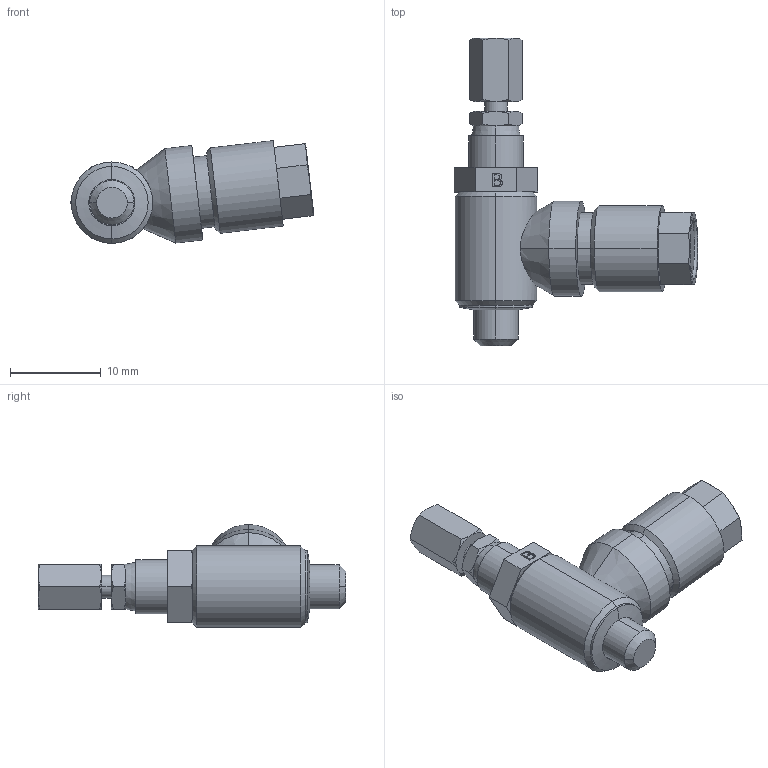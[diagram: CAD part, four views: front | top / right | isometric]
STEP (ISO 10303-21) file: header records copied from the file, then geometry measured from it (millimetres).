
FILE_DESCRIPTION (( 'STEP AP203' ), '1' );
FILE_NAME ('249740.STEP', '2016-09-22T09:11:33', ( '' ), ( '' ), 'SwSTEP 2.0', 'SolidWorks 2016', '' );
FILE_SCHEMA (( 'CONFIG_CONTROL_DESIGN' ));
Length unit declared in the file: millimetre
Products named in the file (1): 249740
Bounding box: 26.93 x 34 x 11.36 mm (x, y, z)
Volume: 2535.5 mm3; surface area: 1529.9 mm2
Topology: 1 solids, 1 shells, 135 faces, 301 edges, 180 vertices
Faces by surface type: plane 55, cone 50, cylinder 18, bspline 12
Entity records: 4454 total; most frequent: CARTESIAN_POINT 1541, ORIENTED_EDGE 602, DIRECTION 549, EDGE_CURVE 301, AXIS2_PLACEMENT_3D 212, VERTEX_POINT 180, EDGE_LOOP 147, FACE_OUTER_BOUND 135
